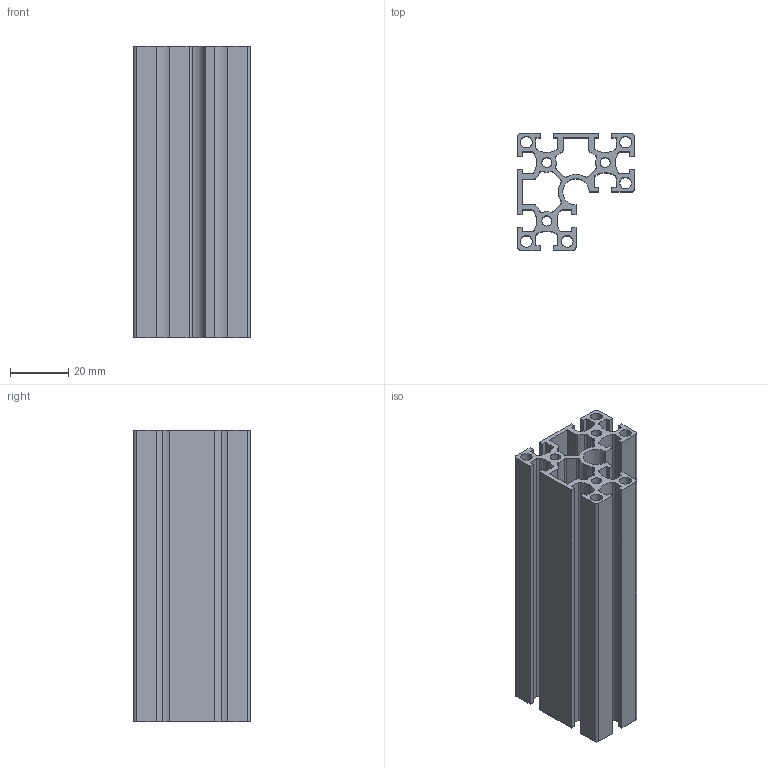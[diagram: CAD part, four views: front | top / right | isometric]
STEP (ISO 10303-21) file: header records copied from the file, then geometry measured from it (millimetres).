
FILE_DESCRIPTION (( 'STEP AP203' ), '1' );
FILE_NAME ('WS4420-4.STEP', '2024-02-17T06:05:50', ( '' ), ( '' ), 'SwSTEP 2.0', 'SolidWorks 2022', '' );
FILE_SCHEMA (( 'CONFIG_CONTROL_DESIGN' ));
Length unit declared in the file: millimetre
Products named in the file (1): WS4420-4
Bounding box: 40 x 40 x 100 mm (x, y, z)
Volume: 43796.3 mm3; surface area: 50826.1 mm2
Topology: 1 solids, 1 shells, 153 faces, 453 edges, 302 vertices
Faces by surface type: cylinder 79, plane 74
Entity records: 5282 total; most frequent: DIRECTION 919, CARTESIAN_POINT 909, ORIENTED_EDGE 906, EDGE_CURVE 453, AXIS2_PLACEMENT_3D 312, VERTEX_POINT 302, LINE 295, VECTOR 295
